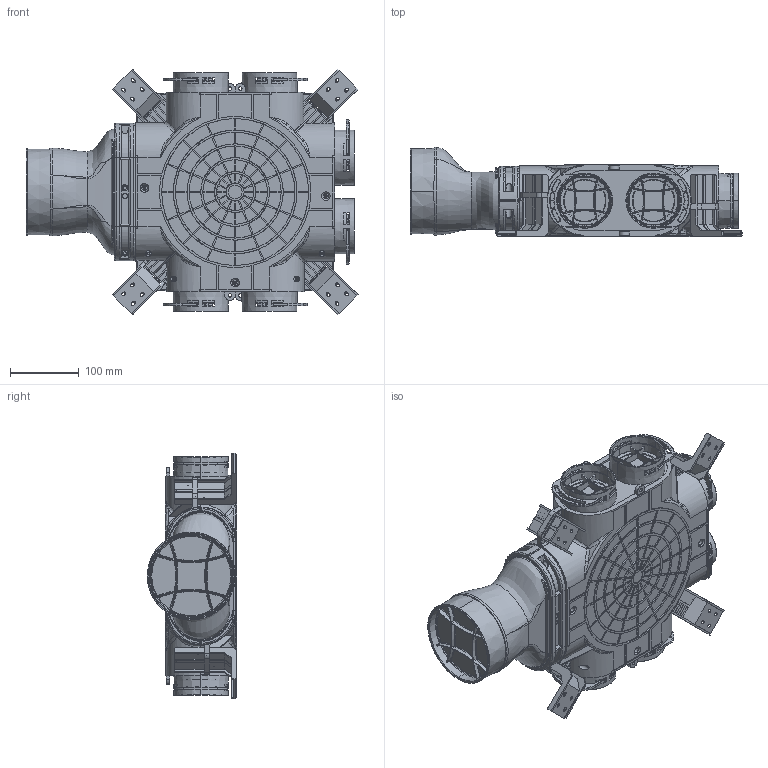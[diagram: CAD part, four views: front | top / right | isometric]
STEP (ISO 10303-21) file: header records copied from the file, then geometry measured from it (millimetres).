
FILE_DESCRIPTION((''),'2;1');
FILE_NAME('VCB125-6_UPR_ASM','2025-12-29T15:50:15',('niepogodzinskij'),(''),'CREO PARAMETRIC BY PTC INC, 2025010','CREO PARAMETRIC BY PTC INC, 2025010','');
FILE_SCHEMA(('CONFIG_CONTROL_DESIGN'));
Products named in the file (7): 0VCBOP_OBUD_VCB_PELNA_1_1; 0VCBP75X2_1_1; 0VPEO_OBEJMA_1_1; 0VCBP125_PRZYLACZE125_1_1; 0VBWM_WSPORNIK_VPB_VCB_1_1; ASM0001_ASM_1_1_ASM; VCB125-6_UPR_ASM
Assembly tree (13 placements, depth 3):
  VCB125-6_UPR_ASM
    ASM0001_ASM_1_1_ASM
      0VCBOP_OBUD_VCB_PELNA_1_1  x2
      0VCBP75X2_1_1  x3
      0VPEO_OBEJMA_1_1  x2
      0VCBP125_PRZYLACZE125_1_1
      0VBWM_WSPORNIK_VPB_VCB_1_1  x4
Bounding box: 483.18 x 129.98 x 357.57 mm (x, y, z)
Volume: 9134398.9 mm3; surface area: 1011184.3 mm2
Topology: 12 solids, 17 shells, 5767 faces, 15445 edges, 9621 vertices
Faces by surface type: plane 2137, cylinder 1272, torus 930, bspline 780, cone 476, sphere 156, extrusion 16
Entity records: 108515 total; most frequent: CARTESIAN_POINT 48628, ORIENTED_EDGE 12986, DIRECTION 12323, EDGE_CURVE 6493, AXIS2_PLACEMENT_3D 4878, VERTEX_POINT 4072, CIRCLE 2695, EDGE_LOOP 2587
